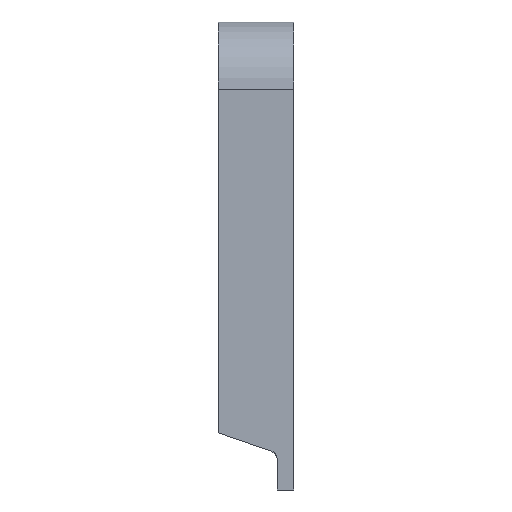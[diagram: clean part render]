
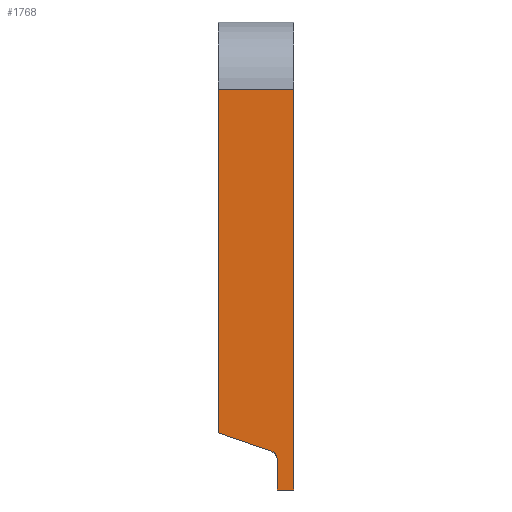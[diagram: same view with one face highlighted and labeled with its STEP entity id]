
A CAD part, front view. The second image highlights one B-rep face of the part: STEP entity #1768.
In plain terms, the highlighted planar face has unit normal (0, -1, 0).
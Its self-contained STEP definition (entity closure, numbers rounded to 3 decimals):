
#1740=AXIS2_PLACEMENT_3D('Plane Axis2P3D',#1737,#1738,#1739) ;
#612=CARTESIAN_POINT('Vertex',(5.6,0.,-52.924)) ;
#617=CARTESIAN_POINT('Line Origine',(5.6,0.,-51.424)) ;
#621=CARTESIAN_POINT('Vertex',(5.6,0.,-49.924)) ;
#661=CARTESIAN_POINT('Control Point',(5.084,0.,-49.246)) ;
#662=CARTESIAN_POINT('Control Point',(5.314,0.,-49.325)) ;
#663=CARTESIAN_POINT('Control Point',(5.507,0.,-49.492)) ;
#664=CARTESIAN_POINT('Control Point',(5.6,0.,-49.709)) ;
#665=CARTESIAN_POINT('Control Point',(5.6,0.,-49.924)) ;
#666=CARTESIAN_POINT('Vertex',(5.084,0.,-49.246)) ;
#894=CARTESIAN_POINT('Line Origine',(6.4,0.,-52.924)) ;
#898=CARTESIAN_POINT('Vertex',(7.2,0.,-52.924)) ;
#1715=CARTESIAN_POINT('Vertex',(7.2,0.,-14.824)) ;
#1722=CARTESIAN_POINT('Vertex',(0.,0.,-14.824)) ;
#1725=CARTESIAN_POINT('Line Origine',(7.25,0.,-14.824)) ;
#1737=CARTESIAN_POINT('Axis2P3D Location',(6.4,0.,-52.924)) ;
#1742=CARTESIAN_POINT('Line Origine',(7.2,0.,-33.874)) ;
#1747=CARTESIAN_POINT('Line Origine',(0.,0.,-31.16)) ;
#1751=CARTESIAN_POINT('Vertex',(0.,0.,-47.496)) ;
#1754=CARTESIAN_POINT('Line Origine',(2.542,0.,-48.371)) ;
#618=DIRECTION('Vector Direction',(0.,0.,-1.)) ;
#895=DIRECTION('Vector Direction',(1.,0.,0.)) ;
#1726=DIRECTION('Vector Direction',(1.,0.,0.)) ;
#1738=DIRECTION('Axis2P3D Direction',(0.,1.,0.)) ;
#1739=DIRECTION('Axis2P3D XDirection',(0.,0.,1.)) ;
#1743=DIRECTION('Vector Direction',(0.,0.,1.)) ;
#1748=DIRECTION('Vector Direction',(0.,0.,1.)) ;
#1755=DIRECTION('Vector Direction',(0.946,0.,-0.326)) ;
#619=VECTOR('Line Direction',#618,1.) ;
#896=VECTOR('Line Direction',#895,1.) ;
#1727=VECTOR('Line Direction',#1726,1.) ;
#1744=VECTOR('Line Direction',#1743,1.) ;
#1749=VECTOR('Line Direction',#1748,1.) ;
#1756=VECTOR('Line Direction',#1755,1.) ;
#1760=ORIENTED_EDGE('',*,*,#1746,.F.) ;
#1761=ORIENTED_EDGE('',*,*,#1729,.F.) ;
#1762=ORIENTED_EDGE('',*,*,#1753,.F.) ;
#1763=ORIENTED_EDGE('',*,*,#1758,.T.) ;
#1764=ORIENTED_EDGE('',*,*,#668,.T.) ;
#1765=ORIENTED_EDGE('',*,*,#623,.T.) ;
#1766=ORIENTED_EDGE('',*,*,#900,.T.) ;
#1768=ADVANCED_FACE('NOCUT',(#1767),#1741,.F.) ;
#660=B_SPLINE_CURVE_WITH_KNOTS('',4,(#661,#662,#663,#664,#665),.UNSPECIFIED.,.F.,.U.,(5,5),(0.,1.389),.UNSPECIFIED.) ;
#623=EDGE_CURVE('',#622,#613,#620,.T.) ;
#668=EDGE_CURVE('',#667,#622,#660,.T.) ;
#900=EDGE_CURVE('',#613,#899,#897,.T.) ;
#1729=EDGE_CURVE('',#1723,#1716,#1728,.T.) ;
#1746=EDGE_CURVE('',#1716,#899,#1745,.F.) ;
#1753=EDGE_CURVE('',#1752,#1723,#1750,.T.) ;
#1758=EDGE_CURVE('',#1752,#667,#1757,.T.) ;
#1759=EDGE_LOOP('',(#1760,#1761,#1762,#1763,#1764,#1765,#1766)) ;
#1767=FACE_OUTER_BOUND('',#1759,.T.) ;
#620=LINE('Line',#617,#619) ;
#897=LINE('Line',#894,#896) ;
#1728=LINE('Line',#1725,#1727) ;
#1745=LINE('Line',#1742,#1744) ;
#1750=LINE('Line',#1747,#1749) ;
#1757=LINE('Line',#1754,#1756) ;
#1741=PLANE('',#1740) ;
#613=VERTEX_POINT('',#612) ;
#622=VERTEX_POINT('',#621) ;
#667=VERTEX_POINT('',#666) ;
#899=VERTEX_POINT('',#898) ;
#1716=VERTEX_POINT('',#1715) ;
#1723=VERTEX_POINT('',#1722) ;
#1752=VERTEX_POINT('',#1751) ;
